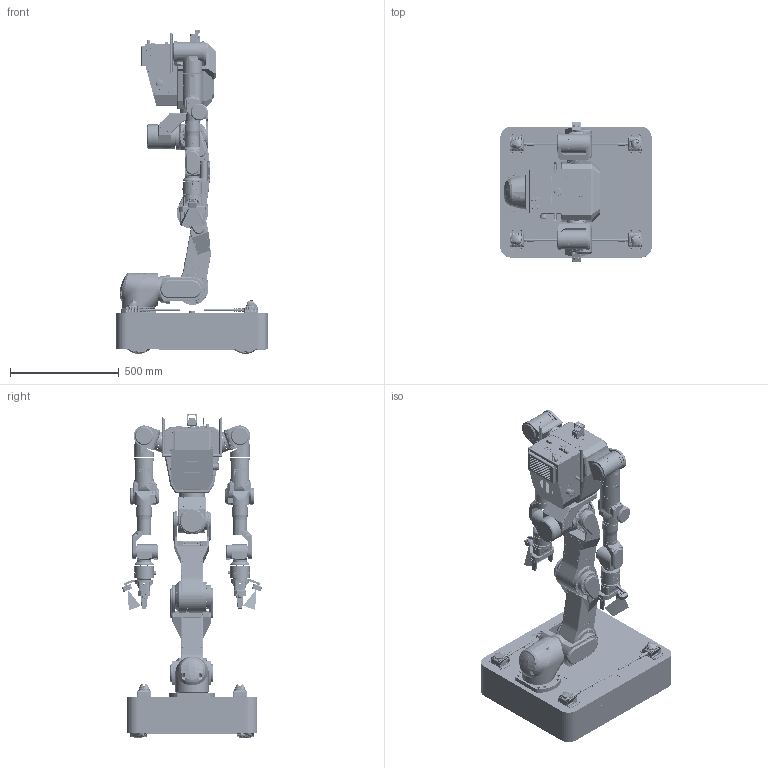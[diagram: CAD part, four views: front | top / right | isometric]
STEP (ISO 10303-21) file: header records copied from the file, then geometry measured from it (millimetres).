
FILE_DESCRIPTION(/* description */ (''),/* implementation_level */ '2;1');
FILE_NAME(/* name */ 'RB-Y1_v1.1_3D_Power Grip_MW_KCs_260107.stp',/* time_stamp */ '2026-01-08T18:04:13+09:00',/* author */ ('KiWook.H'),/* organization */ (''),/* preprocessor_version */ 'ST-DEVELOPER v20',/* originating_system */ 'Autodesk Inventor 2025',/* authorisation */ '');
FILE_SCHEMA (('AUTOMOTIVE_DESIGN { 1 0 10303 214 3 1 1 }'));
Products named in the file (22): RB-Y1_v1.1_3D_Power Grip_MW_KCs_260107; 000_Base_Macanum_v1.1; 001_AR_v1.1; 002_AP_v1.1; 003_KN_v1.1; 004_HP_v1.1; 005_HR_v1.1; 006_HY_v1.1; 007_SP_R_v1.1; 008_SR_R_v1.1; 009_SY_R_v1.1; 010_EL_R_v1.1; 011_WY1_R_v1.1; 012_WP_R_v1.1; 014_SP_L_v1.1; 015_SR_L_v1.1; 016_SY_L_v1.1; 017_EL_L_v1.1; 018_WY1_L_v1.1; 019_WP_L_v1.1; 020_FTsensor TF_v1.1; 021_Gripper_Power_v1.1
Assembly tree (23 placements, depth 2):
  RB-Y1_v1.1_3D_Power Grip_MW_KCs_260107
    000_Base_Macanum_v1.1
    001_AR_v1.1
    002_AP_v1.1
    003_KN_v1.1
    004_HP_v1.1
    005_HR_v1.1
    006_HY_v1.1
    007_SP_R_v1.1
    008_SR_R_v1.1
    009_SY_R_v1.1
    010_EL_R_v1.1
    011_WY1_R_v1.1
    012_WP_R_v1.1
    014_SP_L_v1.1
    015_SR_L_v1.1
    016_SY_L_v1.1
    017_EL_L_v1.1
    018_WY1_L_v1.1
    019_WP_L_v1.1
    020_FTsensor TF_v1.1  x2
    021_Gripper_Power_v1.1  x2
Bounding box: 695 x 642.81 x 1486.2 mm (x, y, z)
Volume: 95283742.2 mm3; surface area: 7100018.9 mm2
Topology: 1665 solids, 2431 shells, 32106 faces, 81117 edges, 52305 vertices
Faces by surface type: plane 14498, cylinder 9434, cone 2641, torus 2234, bspline 1662, sphere 1637
Full cylindrical faces by diameter (mm): 0.6 x48, 0.7 x16, 0.9 x48, 1 x51, 1.03 x16, 1.5 x10, 1.567 x16, 1.6 x145, 1.7 x10, 2 x42, 2.013 x4, 2.05 x16, 2.2 x4, 2.4 x16, 2.459 x89, 2.5 x67, 2.6 x4, 2.693 x10, 2.8 x22, 2.9 x2, 3 x201, 3.1 x10, 3.2 x38, 3.242 x39, 3.3 x24, 3.4 x24, 3.5 x4, 3.571 x4, 3.8 x4, 3.9 x1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
Entity records: 1229532 total; most frequent: CARTESIAN_POINT 486642, DIRECTION 150395, ORIENTED_EDGE 147164, EDGE_CURVE 73598, AXIS2_PLACEMENT_3D 58189, VERTEX_POINT 49936, EDGE_LOOP 34416, LINE 34017
